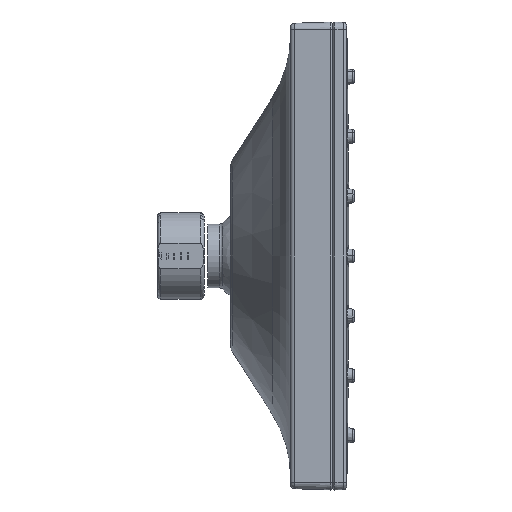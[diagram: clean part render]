
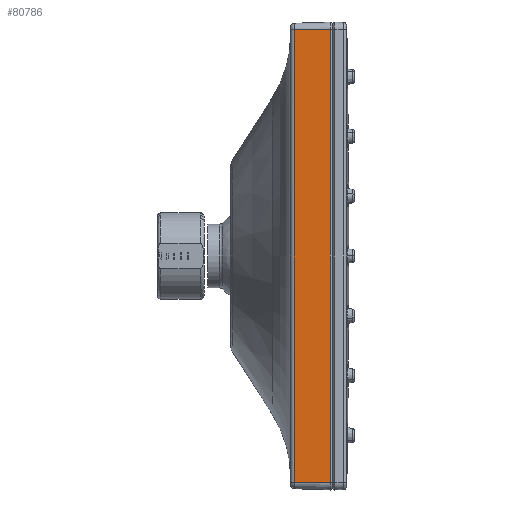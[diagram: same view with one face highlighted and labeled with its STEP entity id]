
A CAD part, left-side view. The second image highlights one B-rep face of the part: STEP entity #80786.
In plain terms, the highlighted planar face has unit normal (-0.999, 0.035, 0).
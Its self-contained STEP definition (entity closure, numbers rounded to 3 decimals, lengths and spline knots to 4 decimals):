
#1302 = CARTESIAN_POINT ( 'NONE',  ( -2.4467, 0.5526, -2.378 ) ) ;
#2270 = LINE ( 'NONE', #1302, #59605 ) ;
#2281 = LINE ( 'NONE', #41175, #62240 ) ;
#4311 = VERTEX_POINT ( 'NONE', #20244 ) ;
#9592 = DIRECTION ( 'NONE',  ( 0., 0., 1. ) ) ;
#12040 = VERTEX_POINT ( 'NONE', #69170 ) ;
#13261 = EDGE_CURVE ( 'NONE', #4311, #12040, #2281, .T. ) ;
#16184 = DIRECTION ( 'NONE',  ( 0., 0., 1. ) ) ;
#19082 = ORIENTED_EDGE ( 'NONE', *, *, #55349, .F. ) ;
#19441 = LINE ( 'NONE', #49092, #25819 ) ;
#20244 = CARTESIAN_POINT ( 'NONE',  ( -2.4467, 0.5526, -2.378 ) ) ;
#21221 = CARTESIAN_POINT ( 'NONE',  ( -2.4599, 0.1739, -2.378 ) ) ;
#23658 = EDGE_LOOP ( 'NONE', ( #19082, #27765, #68703, #69299 ) ) ;
#25819 = VECTOR ( 'NONE', #41802, 39.3701 ) ;
#26704 = DIRECTION ( 'NONE',  ( 0., 0., 1. ) ) ;
#27249 = CARTESIAN_POINT ( 'NONE',  ( -2.4599, 0.1739, 2.378 ) ) ;
#27765 = ORIENTED_EDGE ( 'NONE', *, *, #13261, .F. ) ;
#29041 = CARTESIAN_POINT ( 'NONE',  ( -2.4599, 0.1739, -2.378 ) ) ;
#29346 = CARTESIAN_POINT ( 'NONE',  ( -2.4606, 0.1535, -2.5868 ) ) ;
#36640 = FACE_OUTER_BOUND ( 'NONE', #23658, .T. ) ;
#41175 = CARTESIAN_POINT ( 'NONE',  ( -2.4467, 0.5526, -2.378 ) ) ;
#41802 = DIRECTION ( 'NONE',  ( -0.035, -0.999, 0. ) ) ;
#47580 = AXIS2_PLACEMENT_3D ( 'NONE', #29346, #59009, #16184 ) ;
#49092 = CARTESIAN_POINT ( 'NONE',  ( -2.4467, 0.5526, 2.378 ) ) ;
#55349 = EDGE_CURVE ( 'NONE', #12040, #82366, #19441, .T. ) ;
#59009 = DIRECTION ( 'NONE',  ( -0.999, 0.035, 0. ) ) ;
#59605 = VECTOR ( 'NONE', #82077, 39.3701 ) ;
#62240 = VECTOR ( 'NONE', #9592, 39.3701 ) ;
#68703 = ORIENTED_EDGE ( 'NONE', *, *, #89381, .T. ) ;
#69170 = CARTESIAN_POINT ( 'NONE',  ( -2.4467, 0.5526, 2.378 ) ) ;
#69299 = ORIENTED_EDGE ( 'NONE', *, *, #70712, .T. ) ;
#70384 = VECTOR ( 'NONE', #26704, 39.3701 ) ;
#70712 = EDGE_CURVE ( 'NONE', #90273, #82366, #78773, .T. ) ;
#78773 = LINE ( 'NONE', #21221, #70384 ) ;
#80786 = ADVANCED_FACE ( 'NONE', ( #36640 ), #95967, .T. ) ;
#82077 = DIRECTION ( 'NONE',  ( -0.035, -0.999, 0. ) ) ;
#82366 = VERTEX_POINT ( 'NONE', #27249 ) ;
#89381 = EDGE_CURVE ( 'NONE', #4311, #90273, #2270, .T. ) ;
#90273 = VERTEX_POINT ( 'NONE', #29041 ) ;
#95967 = PLANE ( 'NONE',  #47580 ) ;
